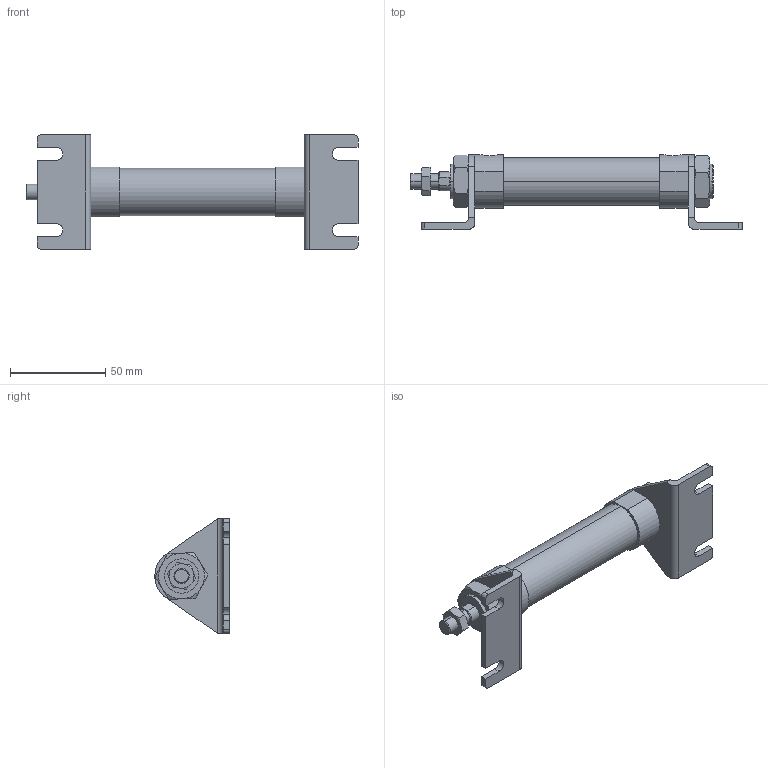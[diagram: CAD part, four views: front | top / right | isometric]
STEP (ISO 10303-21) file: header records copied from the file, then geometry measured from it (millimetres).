
FILE_DESCRIPTION (( 'STEP AP203' ), '1' );
FILE_NAME ('J#2-20-50-L.STEP', '2016-03-10T00:49:35', ( '' ), ( '' ), 'SwSTEP 2.0', 'SolidWorks 2014', '' );
FILE_SCHEMA (( 'CONFIG_CONTROL_DESIGN' ));
Length unit declared in the file: millimetre
Products named in the file (5): J#2-20-50; J#2-20-50-L; J#2-20-L
Assembly tree (6 placements, depth 2):
  J#2-20-50-L
    J#2-20-50
    (unnamed)
    (unnamed)  x2
    J#2-20-L  x2
Bounding box: 174.2 x 39 x 60 mm (x, y, z)
Volume: 86524 mm3; surface area: 29210.6 mm2
Topology: 6 solids, 6 shells, 168 faces, 392 edges, 246 vertices
Faces by surface type: plane 74, cylinder 52, torus 36, cone 6
Entity records: 4278 total; most frequent: CARTESIAN_POINT 1025, DIRECTION 577, ORIENTED_EDGE 542, EDGE_CURVE 271, AXIS2_PLACEMENT_3D 234, VERTEX_POINT 170, EDGE_LOOP 135, ADVANCED_FACE 119
